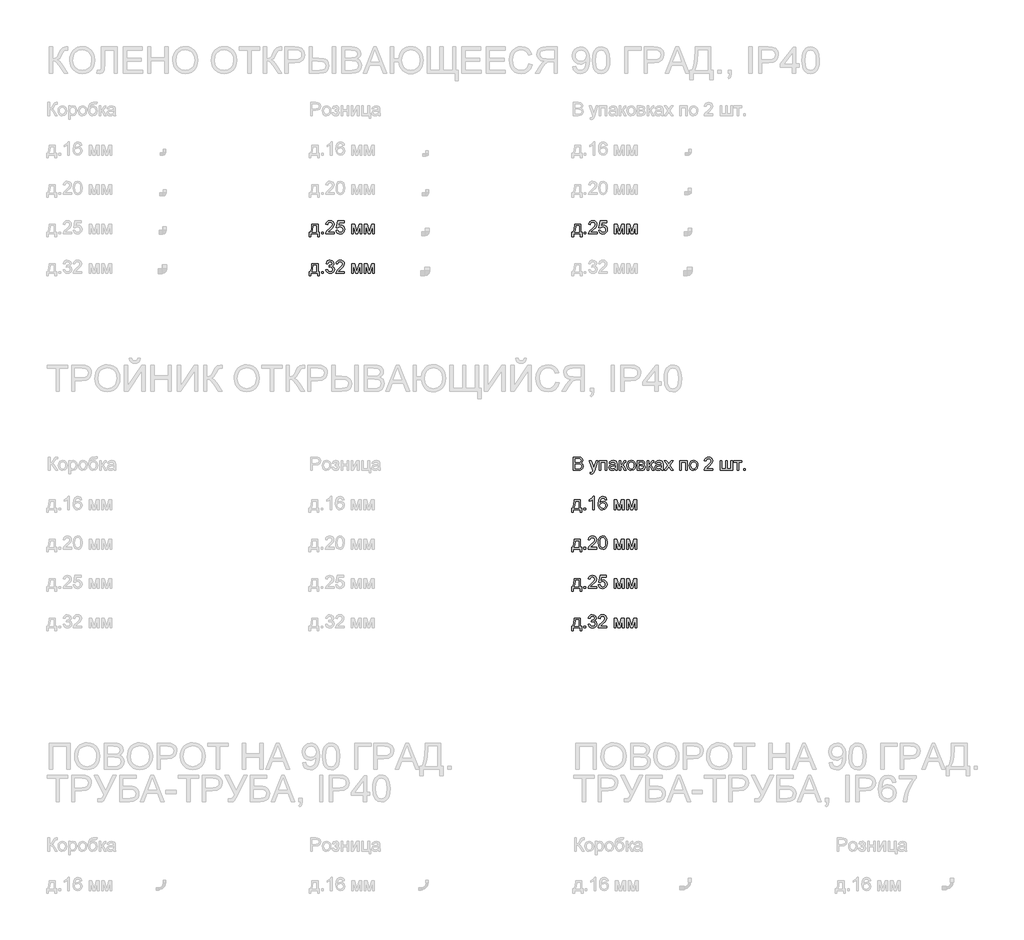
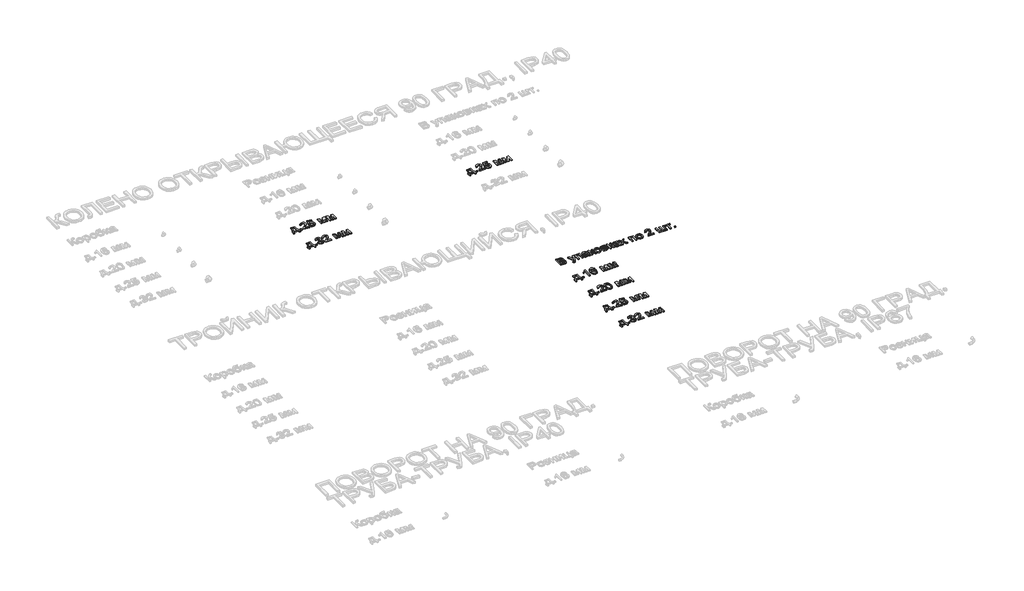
# One storey, part 69 of 98: 8 proxies.
"""IFC4 building model written with IfcOpenShell, lengths in millimetres."""

from ifc_helpers import new_model, si_unit, origin, origin_with_axes, place, context, project, spatial, polyline, outline, extrude, element, save

model = new_model("IFC4")

# Units and contexts
model_context = context("Model", 3, world=origin())
ifc_project = project(units=[si_unit("LENGTHUNIT", "METRE", prefix="MILLI")], contexts=[model_context])

# Site, building, storey
site = spatial("IfcSite", under=ifc_project)
building = spatial("IfcBuilding", under=site)
storey = spatial("IfcBuildingStorey", under=building, Name="Этаж 01", Elevation=0.0)

# Proxies
placement = place(None, origin())
element("IfcBuildingElementProxy", 1, Name="100", ObjectType="100", at=placement, inside=storey, context=model_context, shape_type="SweptSolid", body=[
    extrude(outline(polyline([(1973.0141865, -15985.7395637), (2020.1030819, -15985.7395637), (2020.1030819, -16046.9551277), (2029.520861, -16046.9551277), (2029.520861, -16079.9173545), (2016.9638222, -16079.9173545), (2016.9638222, -16059.5121665), (1965.1660373, -16059.5121665), (1965.1660373, -16079.9173545), (1952.6089985, -16079.9173545), (1952.6089985, -16046.9551277), (1960.4571478, -16046.9551277), (1970.1569697, -16023.0060098), (1973.0141865, -15985.7395637)]), holes=[polyline([(1984.0015955, -15998.2966025), (1981.0585395, -16026.905559), (1974.5838164, -16046.9551277), (2007.5460431, -16046.9551277), (2007.5460431, -15998.2966025), (1984.0015955, -15998.2966025)])]), origin_with_axes(), (0.0, 0.0, 1.0), 10.0),
    extrude(outline(polyline([(2046.7867893, -16059.5121665), (2046.7867893, -16046.9551277), (2059.3438281, -16046.9551277), (2059.3438281, -16059.5121665), (2046.7867893, -16059.5121665)])), origin_with_axes(), (0.0, 0.0, 1.0), 10.0),
    extrude(outline(polyline([(2144.1038398, -16046.9551277), (2144.1038398, -16059.5121665), (2078.1793862, -16059.5121665), (2079.5282869, -16050.8546768), (2087.1557069, -16037.5250859), (2102.8765308, -16022.9692216), (2124.5570431, -16002.0489988), (2129.9771711, -15987.8242283), (2124.8636114, -15976.3095219), (2111.509495, -15971.6128951), (2097.5912928, -15976.1991573), (2092.3060548, -15988.8788234), (2079.7490161, -15987.3091935), (2082.7932396, -15975.1629563), (2089.3752616, -15966.2908689), (2099.1517256, -15960.8646095), (2111.7792751, -15959.0558563), (2124.4987951, -15961.0669445), (2134.256865, -15967.1002093), (2140.4648737, -15976.1133182), (2142.5342099, -15987.0639389), (2140.3023925, -15998.9710528), (2132.8834389, -16011.2828369), (2114.8940093, -16028.4874515), (2100.4485097, -16040.5662437), (2094.7831269, -16046.9551277), (2144.1038398, -16046.9551277)])), origin_with_axes(), (0.0, 0.0, 1.0), 10.0),
    extrude(outline(polyline([(2156.6608785, -16032.8284591), (2169.2179173, -16031.2588292), (2175.5454876, -16044.1960127), (2188.6666121, -16048.5247575), (2197.6674583, -16047.019507), (2204.4119615, -16042.5037555), (2208.6242103, -16035.4986692), (2210.0282933, -16026.5254142), (2204.7675808, -16011.6139307), (2198.1610333, -16007.5120464), (2188.8628158, -16006.1447517), (2177.8386187, -16008.3275182), (2170.7875471, -16013.9929009), (2158.2305084, -16012.4232711), (2169.2179173, -15960.6254862), (2217.8764425, -15960.6254862), (2217.8764425, -15973.1825249), (2179.3714604, -15973.1825249), (2174.0003832, -16000.847251), (2182.9705725, -15995.4025974), (2192.3699575, -15993.5877129), (2204.1023275, -15995.8379245), (2213.8420033, -16002.5885591), (2220.3994999, -16012.8769922), (2222.5853321, -16025.7405993), (2220.6171634, -16038.2976381), (2214.7126574, -16049.0397923), (2203.4064174, -16058.0712953), (2188.6175612, -16061.0817963), (2176.2843173, -16059.1473501), (2166.4588023, -16053.3440117), (2159.7234961, -16044.3462312), (2156.6608785, -16032.8284591)])), origin_with_axes(), (0.0, 0.0, 1.0), 10.0),
    extrude(outline(polyline([(2275.9527468, -15985.7395637), (2297.5596827, -15985.7395637), (2314.2124743, -16044.7968867), (2332.1651157, -15985.7395637), (2352.8646093, -15985.7395637), (2352.8646093, -16059.5121665), (2340.3075705, -16059.5121665), (2340.3075705, -16000.111487), (2322.2568273, -16059.5121665), (2305.7757139, -16059.5121665), (2288.5097856, -15997.2665329), (2288.5097856, -16059.5121665), (2275.9527468, -16059.5121665), (2275.9527468, -15985.7395637)])), origin_with_axes(), (0.0, 0.0, 1.0), 10.0),
    extrude(outline(polyline([(2371.7001674, -15985.7395637), (2393.3071033, -15985.7395637), (2409.9598949, -16044.7968867), (2427.9125363, -15985.7395637), (2448.6120299, -15985.7395637), (2448.6120299, -16059.5121665), (2436.0549911, -16059.5121665), (2436.0549911, -16000.111487), (2418.0042479, -16059.5121665), (2401.5231345, -16059.5121665), (2384.2572062, -15997.2665329), (2384.2572062, -16059.5121665), (2371.7001674, -16059.5121665), (2371.7001674, -15985.7395637)])), origin_with_axes(), (0.0, 0.0, 1.0), 10.0),
])
element("IfcBuildingElementProxy", 2, Name="100", ObjectType="100", at=placement, inside=storey, context=model_context, shape_type="SweptSolid", body=[
    extrude(outline(polyline([(1973.0141865, -16285.7395637), (2020.1030819, -16285.7395637), (2020.1030819, -16346.9551277), (2029.520861, -16346.9551277), (2029.520861, -16379.9173545), (2016.9638222, -16379.9173545), (2016.9638222, -16359.5121665), (1965.1660373, -16359.5121665), (1965.1660373, -16379.9173545), (1952.6089985, -16379.9173545), (1952.6089985, -16346.9551277), (1960.4571478, -16346.9551277), (1970.1569697, -16323.0060098), (1973.0141865, -16285.7395637)]), holes=[polyline([(1984.0015955, -16298.2966025), (1981.0585395, -16326.905559), (1974.5838164, -16346.9551277), (2007.5460431, -16346.9551277), (2007.5460431, -16298.2966025), (1984.0015955, -16298.2966025)])]), origin_with_axes(), (0.0, 0.0, 1.0), 10.0),
    extrude(outline(polyline([(2046.7867893, -16359.5121665), (2046.7867893, -16346.9551277), (2059.3438281, -16346.9551277), (2059.3438281, -16359.5121665), (2046.7867893, -16359.5121665)])), origin_with_axes(), (0.0, 0.0, 1.0), 10.0),
    extrude(outline(polyline([(2079.7490161, -16332.8284591), (2092.3060548, -16331.2588292), (2099.2344991, -16344.4780556), (2112.196208, -16348.5247575), (2120.8046467, -16347.1329373), (2127.4510481, -16342.9574767), (2133.1164308, -16329.1741646), (2127.500099, -16316.1879302), (2113.2262776, -16311.049845), (2104.4216352, -16312.4232711), (2105.8195868, -16299.8662323), (2107.830675, -16300.0133851), (2122.079971, -16296.4081416), (2126.8256487, -16291.8341421), (2128.4075413, -16285.3226308), (2123.8212791, -16275.5001815), (2112.0000043, -16271.6128951), (2100.0315767, -16275.5369697), (2093.8756847, -16287.3091935), (2081.3186459, -16285.7395637), (2085.01586, -16274.4639805), (2091.5948163, -16266.0456142), (2100.5956625, -16260.8032958), (2111.5585459, -16259.0558563), (2126.7030214, -16262.5016843), (2137.2980228, -16271.9194634), (2140.9645801, -16284.5868668), (2137.4819638, -16296.1628869), (2127.181268, -16304.47702), (2140.8664782, -16313.0609332), (2145.6734696, -16329.3948938), (2143.2699739, -16341.6331015), (2136.0594868, -16351.860221), (2125.1763111, -16358.7764025), (2111.7547496, -16361.0817963), (2099.6146438, -16359.1136276), (2089.7308809, -16353.2091216), (2082.8576189, -16344.1776186), (2079.7490161, -16332.8284591)])), origin_with_axes(), (0.0, 0.0, 1.0), 10.0),
    extrude(outline(polyline([(2221.0157022, -16346.9551277), (2221.0157022, -16359.5121665), (2155.0912487, -16359.5121665), (2156.4401493, -16350.8546768), (2164.0675694, -16337.5250859), (2179.7883933, -16322.9692216), (2201.4689055, -16302.0489988), (2206.8890336, -16287.8242283), (2201.7754739, -16276.3095219), (2188.4213574, -16271.6128951), (2174.5031553, -16276.1991573), (2169.2179173, -16288.8788234), (2156.6608785, -16287.3091935), (2159.705102, -16275.1629563), (2166.2871241, -16266.2908689), (2176.0635881, -16260.8646095), (2188.6911376, -16259.0558563), (2201.4106576, -16261.0669445), (2211.1687275, -16267.1002093), (2217.3767361, -16276.1133182), (2219.4460724, -16287.0639389), (2217.2142549, -16298.9710528), (2209.7953014, -16311.2828369), (2191.8058718, -16328.4874515), (2177.3603721, -16340.5662437), (2171.6949894, -16346.9551277), (2221.0157022, -16346.9551277)])), origin_with_axes(), (0.0, 0.0, 1.0), 10.0),
    extrude(outline(polyline([(2275.9527468, -16285.7395637), (2297.5596827, -16285.7395637), (2314.2124743, -16344.7968867), (2332.1651157, -16285.7395637), (2352.8646093, -16285.7395637), (2352.8646093, -16359.5121665), (2340.3075705, -16359.5121665), (2340.3075705, -16300.111487), (2322.2568273, -16359.5121665), (2305.7757139, -16359.5121665), (2288.5097856, -16297.2665329), (2288.5097856, -16359.5121665), (2275.9527468, -16359.5121665), (2275.9527468, -16285.7395637)])), origin_with_axes(), (0.0, 0.0, 1.0), 10.0),
    extrude(outline(polyline([(2371.7001674, -16285.7395637), (2393.3071033, -16285.7395637), (2409.9598949, -16344.7968867), (2427.9125363, -16285.7395637), (2448.6120299, -16285.7395637), (2448.6120299, -16359.5121665), (2436.0549911, -16359.5121665), (2436.0549911, -16300.111487), (2418.0042479, -16359.5121665), (2401.5231345, -16359.5121665), (2384.2572062, -16297.2665329), (2384.2572062, -16359.5121665), (2371.7001674, -16359.5121665), (2371.7001674, -16285.7395637)])), origin_with_axes(), (0.0, 0.0, 1.0), 10.0),
])
element("IfcBuildingElementProxy", 3, Name="100", ObjectType="100", at=placement, inside=storey, context=model_context, shape_type="SweptSolid", body=[
    extrude(outline(polyline([(3973.0141865, -15985.7395637), (4020.1030819, -15985.7395637), (4020.1030819, -16046.9551277), (4029.520861, -16046.9551277), (4029.520861, -16079.9173545), (4016.9638222, -16079.9173545), (4016.9638222, -16059.5121665), (3965.1660373, -16059.5121665), (3965.1660373, -16079.9173545), (3952.6089985, -16079.9173545), (3952.6089985, -16046.9551277), (3960.4571478, -16046.9551277), (3970.1569697, -16023.0060098), (3973.0141865, -15985.7395637)]), holes=[polyline([(3984.0015955, -15998.2966025), (3981.0585395, -16026.905559), (3974.5838164, -16046.9551277), (4007.5460431, -16046.9551277), (4007.5460431, -15998.2966025), (3984.0015955, -15998.2966025)])]), origin_with_axes(), (0.0, 0.0, 1.0), 10.0),
    extrude(outline(polyline([(4046.7867893, -16059.5121665), (4046.7867893, -16046.9551277), (4059.3438281, -16046.9551277), (4059.3438281, -16059.5121665), (4046.7867893, -16059.5121665)])), origin_with_axes(), (0.0, 0.0, 1.0), 10.0),
    extrude(outline(polyline([(4144.1038398, -16046.9551277), (4144.1038398, -16059.5121665), (4078.1793862, -16059.5121665), (4079.5282869, -16050.8546768), (4087.1557069, -16037.5250859), (4102.8765308, -16022.9692216), (4124.5570431, -16002.0489988), (4129.9771711, -15987.8242283), (4124.8636114, -15976.3095219), (4111.509495, -15971.6128951), (4097.5912928, -15976.1991573), (4092.3060548, -15988.8788234), (4079.7490161, -15987.3091935), (4082.7932396, -15975.1629563), (4089.3752616, -15966.2908689), (4099.1517256, -15960.8646095), (4111.7792751, -15959.0558563), (4124.4987951, -15961.0669445), (4134.256865, -15967.1002093), (4140.4648737, -15976.1133182), (4142.5342099, -15987.0639389), (4140.3023925, -15998.9710528), (4132.8834389, -16011.2828369), (4114.8940093, -16028.4874515), (4100.4485097, -16040.5662437), (4094.7831269, -16046.9551277), (4144.1038398, -16046.9551277)])), origin_with_axes(), (0.0, 0.0, 1.0), 10.0),
    extrude(outline(polyline([(4156.6608785, -16032.8284591), (4169.2179173, -16031.2588292), (4175.5454876, -16044.1960127), (4188.6666121, -16048.5247575), (4197.6674583, -16047.019507), (4204.4119615, -16042.5037555), (4208.6242103, -16035.4986692), (4210.0282933, -16026.5254142), (4204.7675808, -16011.6139307), (4198.1610333, -16007.5120464), (4188.8628158, -16006.1447517), (4177.8386187, -16008.3275182), (4170.7875471, -16013.9929009), (4158.2305084, -16012.4232711), (4169.2179173, -15960.6254862), (4217.8764425, -15960.6254862), (4217.8764425, -15973.1825249), (4179.3714604, -15973.1825249), (4174.0003832, -16000.847251), (4182.9705725, -15995.4025974), (4192.3699575, -15993.5877129), (4204.1023275, -15995.8379245), (4213.8420033, -16002.5885591), (4220.3994999, -16012.8769922), (4222.5853321, -16025.7405993), (4220.6171634, -16038.2976381), (4214.7126574, -16049.0397923), (4203.4064174, -16058.0712953), (4188.6175612, -16061.0817963), (4176.2843173, -16059.1473501), (4166.4588023, -16053.3440117), (4159.7234961, -16044.3462312), (4156.6608785, -16032.8284591)])), origin_with_axes(), (0.0, 0.0, 1.0), 10.0),
    extrude(outline(polyline([(4275.9527468, -15985.7395637), (4297.5596827, -15985.7395637), (4314.2124743, -16044.7968867), (4332.1651157, -15985.7395637), (4352.8646093, -15985.7395637), (4352.8646093, -16059.5121665), (4340.3075705, -16059.5121665), (4340.3075705, -16000.111487), (4322.2568273, -16059.5121665), (4305.7757139, -16059.5121665), (4288.5097856, -15997.2665329), (4288.5097856, -16059.5121665), (4275.9527468, -16059.5121665), (4275.9527468, -15985.7395637)])), origin_with_axes(), (0.0, 0.0, 1.0), 10.0),
    extrude(outline(polyline([(4371.7001674, -15985.7395637), (4393.3071033, -15985.7395637), (4409.9598949, -16044.7968867), (4427.9125363, -15985.7395637), (4448.6120299, -15985.7395637), (4448.6120299, -16059.5121665), (4436.0549911, -16059.5121665), (4436.0549911, -16000.111487), (4418.0042479, -16059.5121665), (4401.5231345, -16059.5121665), (4384.2572062, -15997.2665329), (4384.2572062, -16059.5121665), (4371.7001674, -16059.5121665), (4371.7001674, -15985.7395637)])), origin_with_axes(), (0.0, 0.0, 1.0), 10.0),
])
element("IfcBuildingElementProxy", 4, Name="100", ObjectType="100", at=placement, inside=storey, context=model_context, shape_type="SweptSolid", body=[
    extrude(outline(polyline([(3970.1856084, -18085.7395637), (4017.2745038, -18085.7395637), (4017.2745038, -18146.9551277), (4026.6922829, -18146.9551277), (4026.6922829, -18179.9173545), (4014.1352441, -18179.9173545), (4014.1352441, -18159.5121665), (3962.3374592, -18159.5121665), (3962.3374592, -18179.9173545), (3949.7804204, -18179.9173545), (3949.7804204, -18146.9551277), (3957.6285697, -18146.9551277), (3967.3283916, -18123.0060098), (3970.1856084, -18085.7395637)]), holes=[polyline([(3981.1730173, -18098.2966025), (3978.2299614, -18126.905559), (3971.7552383, -18146.9551277), (4004.717465, -18146.9551277), (4004.717465, -18098.2966025), (3981.1730173, -18098.2966025)])]), origin_with_axes(), (0.0, 0.0, 1.0), 10.0),
    extrude(outline(polyline([(4043.9582112, -18159.5121665), (4043.9582112, -18146.9551277), (4056.51525, -18146.9551277), (4056.51525, -18159.5121665), (4043.9582112, -18159.5121665)])), origin_with_axes(), (0.0, 0.0, 1.0), 10.0),
    extrude(outline(polyline([(4124.0093333, -18159.5121665), (4111.4522946, -18159.5121665), (4111.4522946, -18081.2268779), (4099.5574434, -18089.7004265), (4086.338217, -18096.0402596), (4086.338217, -18084.1699338), (4104.7445795, -18072.4222355), (4115.9159294, -18059.0558563), (4124.0093333, -18059.0558563), (4124.0093333, -18159.5121665)])), origin_with_axes(), (0.0, 0.0, 1.0), 10.0),
    extrude(outline(polyline([(4218.1871241, -18085.7395637), (4205.6300853, -18087.3091935), (4200.8721449, -18076.8368194), (4188.2905806, -18071.6128951), (4176.9598152, -18074.6540529), (4168.3881647, -18086.0706575), (4164.8197093, -18108.4501455), (4175.8929574, -18098.4314925), (4189.6149558, -18095.1573428), (4201.2155014, -18097.3952916), (4210.9521115, -18104.109138), (4217.5555933, -18114.3669143), (4219.7567539, -18127.2366527), (4215.6119501, -18144.5638947), (4204.2076083, -18156.8266279), (4187.7510204, -18161.0817963), (4173.5047901, -18158.2613677), (4162.1586962, -18149.8000818), (4154.736677, -18134.8640728), (4152.2626706, -18112.6194748), (4155.0095228, -18087.6096305), (4163.2500795, -18070.5092491), (4174.5011372, -18061.9192045), (4189.0753956, -18059.0558563), (4200.0934613, -18060.8278213), (4208.9164978, -18066.1437161), (4215.0969153, -18074.5866079), (4218.1871241, -18085.7395637)]), holes=[polyline([(4164.8197093, -18127.040449), (4167.7259771, -18137.9174933), (4175.451499, -18145.8146935), (4186.7700017, -18148.5247575), (4195.0565437, -18147.1206746), (4201.5711207, -18142.9084257), (4205.7925665, -18136.2865498), (4207.1997152, -18127.6535857), (4205.8109606, -18119.3670437), (4201.6446971, -18113.0486705), (4195.0197555, -18109.0479538), (4186.2549669, -18107.7143815), (4171.0614405, -18113.0486705), (4166.3801421, -18119.2137596), (4164.8197093, -18127.040449)])]), origin_with_axes(), (0.0, 0.0, 1.0), 10.0),
    extrude(outline(polyline([(4273.1241687, -18085.7395637), (4294.7311046, -18085.7395637), (4311.3838962, -18144.7968867), (4329.3365376, -18085.7395637), (4350.0360312, -18085.7395637), (4350.0360312, -18159.5121665), (4337.4789924, -18159.5121665), (4337.4789924, -18100.111487), (4319.4282492, -18159.5121665), (4302.9471358, -18159.5121665), (4285.6812075, -18097.2665329), (4285.6812075, -18159.5121665), (4273.1241687, -18159.5121665), (4273.1241687, -18085.7395637)])), origin_with_axes(), (0.0, 0.0, 1.0), 10.0),
    extrude(outline(polyline([(4368.8715893, -18085.7395637), (4390.4785252, -18085.7395637), (4407.1313168, -18144.7968867), (4425.0839582, -18085.7395637), (4445.7834518, -18085.7395637), (4445.7834518, -18159.5121665), (4433.226413, -18159.5121665), (4433.226413, -18100.111487), (4415.1756698, -18159.5121665), (4398.6945564, -18159.5121665), (4381.4286281, -18097.2665329), (4381.4286281, -18159.5121665), (4368.8715893, -18159.5121665), (4368.8715893, -18085.7395637)])), origin_with_axes(), (0.0, 0.0, 1.0), 10.0),
])
element("IfcBuildingElementProxy", 5, Name="100", ObjectType="100", at=placement, inside=storey, context=model_context, shape_type="SweptSolid", body=[
    extrude(outline(polyline([(3963.5964075, -17859.5121665), (3963.5964075, -17759.0558563), (4001.9297114, -17759.0558563), (4020.7039558, -17762.011175), (4031.7894666, -17771.0978603), (4035.7993804, -17783.9492046), (4032.4271288, -17795.6846403), (4022.2367975, -17804.5751218), (4034.6098953, -17813.94385), (4038.9386401, -17829.5665721), (4035.9833214, -17843.0678413), (4028.6624697, -17852.6818241), (4017.7363744, -17857.7831211), (4001.6354058, -17859.5121665), (3963.5964075, -17859.5121665)]), holes=[polyline([(3976.1534462, -17799.8662323), (3999.0847573, -17799.8662323), (4012.4756619, -17798.7871118), (4020.5322776, -17794.1395359), (4023.2423416, -17785.9602929), (4020.7162186, -17777.7687871), (4013.481206, -17772.9250075), (3997.3434491, -17771.6128951), (3976.1534462, -17771.6128951), (3976.1534462, -17799.8662323)]), polyline([(3976.1534462, -17846.9551277), (4001.9051859, -17846.9551277), (4011.2248631, -17846.4646184), (4019.1098005, -17843.7300289), (4024.3337249, -17838.1504853), (4026.3816013, -17829.6891994), (4023.9781056, -17819.9280638), (4016.19127, -17814.1032655), (4000.6789126, -17812.4232711), (3976.1534462, -17812.4232711), (3976.1534462, -17846.9551277)])]), origin_with_axes(), (0.0, 0.0, 1.0), 10.0),
    extrude(outline(polyline([(4093.8756847, -17887.7655037), (4092.3060548, -17875.6744488), (4098.6826761, -17876.7780948), (4104.6423644, -17875.3924059), (4108.2966589, -17871.529645), (4111.7302242, -17862.2835442), (4112.7112428, -17859.2423863), (4086.0275354, -17785.7395637), (4099.2712873, -17785.7395637), (4113.4224814, -17826.6970925), (4118.3521001, -17843.080104), (4123.2817188, -17828.6100789), (4137.8253204, -17785.7395637), (4150.9709703, -17785.7395637), (4125.2928071, -17861.278), (4118.6218802, -17877.6610116), (4111.3378167, -17886.5147049), (4101.5521556, -17889.3351335), (4093.8756847, -17887.7655037)])), origin_with_axes(), (0.0, 0.0, 1.0), 10.0),
    extrude(outline(polyline([(4161.3697681, -17785.7395637), (4217.8764425, -17785.7395637), (4217.8764425, -17859.5121665), (4205.3194038, -17859.5121665), (4205.3194038, -17798.2966025), (4173.9268068, -17798.2966025), (4173.9268068, -17859.5121665), (4161.3697681, -17859.5121665), (4161.3697681, -17785.7395637)])), origin_with_axes(), (0.0, 0.0, 1.0), 10.0),
    extrude(outline(polyline([(4283.8008961, -17850.0943874), (4271.624002, -17858.6047242), (4258.1717837, -17861.0817963), (4247.6779498, -17859.5918742), (4239.9370995, -17855.122108), (4235.1638306, -17848.3346852), (4233.572741, -17839.8917934), (4235.9762367, -17829.9589795), (4242.2915443, -17822.7484924), (4251.083924, -17818.6282141), (4261.9487055, -17816.7397532), (4283.7273197, -17812.4232711), (4283.8008961, -17809.6273679), (4280.3428053, -17800.3567416), (4266.4613913, -17796.7269726), (4253.7571998, -17799.142731), (4247.6994096, -17807.7143815), (4235.1423708, -17806.1447517), (4240.5747616, -17793.8820185), (4251.5131196, -17786.6960569), (4268.0800721, -17784.1699338), (4283.298124, -17786.4017513), (4291.8942999, -17792.0058203), (4295.7447982, -17800.5284199), (4296.3579348, -17811.5158288), (4296.3579348, -17827.1385509), (4296.9955969, -17848.9539532), (4299.4971945, -17859.5121665), (4286.9401557, -17859.5121665), (4283.8008961, -17850.0943874)]), holes=[polyline([(4283.8008961, -17824.9803098), (4263.5428609, -17828.8308081), (4252.7393929, -17830.8664218), (4247.8465624, -17834.1773597), (4246.1297797, -17839.0088766), (4249.8699134, -17845.8024308), (4260.8450596, -17848.5247575), (4273.5492511, -17845.5203879), (4281.7407569, -17838.2485871), (4283.7273197, -17828.5365025), (4283.8008961, -17824.9803098)])]), origin_with_axes(), (0.0, 0.0, 1.0), 10.0),
    extrude(outline(polyline([(4313.6238631, -17785.7395637), (4326.1809019, -17785.7395637), (4326.1809019, -17817.1321606), (4334.5931369, -17814.8758177), (4341.4847929, -17801.7301677), (4347.2114893, -17790.3871396), (4352.2637354, -17786.6960569), (4361.4485225, -17785.7395637), (4363.8520182, -17785.7395637), (4363.8520182, -17798.3701789), (4360.4675038, -17798.2966025), (4354.3361373, -17799.6209776), (4350.0196552, -17807.8860598), (4344.9551464, -17816.8255923), (4337.8550239, -17821.203388), (4345.7767495, -17826.0900872), (4353.5513223, -17836.3846517), (4366.9912779, -17859.5121665), (4352.7174565, -17859.5121665), (4339.5472811, -17836.875161), (4332.9254051, -17827.2979664), (4326.1809019, -17824.9803098), (4326.1809019, -17859.5121665), (4313.6238631, -17859.5121665), (4313.6238631, -17785.7395637)])), origin_with_axes(), (0.0, 0.0, 1.0), 10.0),
    extrude(outline(polyline([(4371.7001674, -17822.6258651), (4374.4163628, -17804.8387706), (4382.564949, -17792.3369141), (4392.632653, -17786.2116789), (4404.6869197, -17784.1699338), (4417.8785549, -17786.656203), (4428.4153084, -17794.1150104), (4435.3222928, -17805.957745), (4437.624621, -17821.5957955), (4433.5533936, -17843.9384953), (4421.6953306, -17856.5813732), (4404.6869197, -17861.0817963), (4391.3358689, -17858.6047242), (4380.8113782, -17851.1735079), (4373.9779701, -17839.082453), (4371.7001674, -17822.6258651)]), holes=[polyline([(4384.2572062, -17822.6013396), (4385.7103401, -17833.9658276), (4390.0697417, -17842.0622972), (4396.630304, -17846.9091424), (4404.6869197, -17848.5247575), (4412.7067472, -17846.8999454), (4419.2550467, -17842.025509), (4423.6144483, -17833.8217405), (4425.0675822, -17822.2089321), (4423.6052513, -17811.175538), (4419.2182585, -17803.189433), (4412.6607619, -17798.3425877), (4404.6869197, -17796.7269726), (4396.630304, -17798.3364563), (4390.0697417, -17803.1649075), (4385.7103401, -17811.242983), (4384.2572062, -17822.6013396)])]), origin_with_axes(), (0.0, 0.0, 1.0), 10.0),
    extrude(outline(polyline([(4451.7512896, -17785.7395637), (4479.4160156, -17785.7395637), (4494.5850166, -17787.4195581), (4503.1198788, -17793.5754502), (4506.6883342, -17804.3053417), (4504.5300932, -17813.024145), (4498.0308446, -17819.2413507), (4506.467605, -17826.0471676), (4509.8275939, -17837.8807051), (4507.7000097, -17847.4517684), (4502.6416323, -17854.1901403), (4494.6340675, -17858.1816599), (4483.6589213, -17859.5121665), (4451.7512896, -17859.5121665), (4451.7512896, -17785.7395637)]), holes=[polyline([(4464.3083284, -17846.9551277), (4479.7103212, -17846.9551277), (4493.371006, -17844.6865221), (4497.2705551, -17836.8506356), (4495.1245768, -17830.8051081), (4489.5327705, -17827.2857037), (4478.4840479, -17826.5499397), (4464.3083284, -17826.5499397), (4464.3083284, -17846.9551277)]), polyline([(4464.3083284, -17813.9929009), (4476.7182143, -17813.9929009), (4486.9575965, -17813.3552388), (4491.9362662, -17810.8045903), (4494.1312954, -17806.1938026), (4490.2807972, -17800.0379106), (4477.1106218, -17798.2966025), (4464.3083284, -17798.2966025), (4464.3083284, -17813.9929009)])]), origin_with_axes(), (0.0, 0.0, 1.0), 10.0),
    extrude(outline(polyline([(4525.5238924, -17785.7395637), (4538.0809311, -17785.7395637), (4538.0809311, -17817.1321606), (4546.4931661, -17814.8758177), (4553.3848221, -17801.7301677), (4559.1115185, -17790.3871396), (4564.1637646, -17786.6960569), (4573.3485517, -17785.7395637), (4575.7520474, -17785.7395637), (4575.7520474, -17798.3701789), (4572.3675331, -17798.2966025), (4566.2361665, -17799.6209776), (4561.9196844, -17807.8860598), (4556.8551756, -17816.8255923), (4549.7550531, -17821.203388), (4557.6767787, -17826.0900872), (4565.4513516, -17836.3846517), (4578.8913071, -17859.5121665), (4564.6174857, -17859.5121665), (4551.4473103, -17836.875161), (4544.8254344, -17827.2979664), (4538.0809311, -17824.9803098), (4538.0809311, -17859.5121665), (4525.5238924, -17859.5121665), (4525.5238924, -17785.7395637)])), origin_with_axes(), (0.0, 0.0, 1.0), 10.0),
    extrude(outline(polyline([(4633.8283517, -17850.0943874), (4621.6514577, -17858.6047242), (4608.1992394, -17861.0817963), (4597.7054055, -17859.5918742), (4589.9645552, -17855.122108), (4585.1912863, -17848.3346852), (4583.6001967, -17839.8917934), (4586.0036924, -17829.9589795), (4592.3189999, -17822.7484924), (4601.1113796, -17818.6282141), (4611.9761612, -17816.7397532), (4633.7547753, -17812.4232711), (4633.8283517, -17809.6273679), (4630.370261, -17800.3567416), (4616.488847, -17796.7269726), (4603.7846555, -17799.142731), (4597.7268653, -17807.7143815), (4585.1698265, -17806.1447517), (4590.6022173, -17793.8820185), (4601.5405753, -17786.6960569), (4618.1075278, -17784.1699338), (4633.3255797, -17786.4017513), (4641.9217556, -17792.0058203), (4645.7722538, -17800.5284199), (4646.3853905, -17811.5158288), (4646.3853905, -17827.1385509), (4647.0230526, -17848.9539532), (4649.5246502, -17859.5121665), (4636.9676114, -17859.5121665), (4633.8283517, -17850.0943874)]), holes=[polyline([(4633.8283517, -17824.9803098), (4613.5703165, -17828.8308081), (4602.7668486, -17830.8664218), (4597.8740181, -17834.1773597), (4596.1572354, -17839.0088766), (4599.897369, -17845.8024308), (4610.8725152, -17848.5247575), (4623.5767068, -17845.5203879), (4631.7682126, -17838.2485871), (4633.7547753, -17828.5365025), (4633.8283517, -17824.9803098)])]), origin_with_axes(), (0.0, 0.0, 1.0), 10.0),
    extrude(outline(polyline([(4655.8031696, -17859.5121665), (4682.6340298, -17822.4296613), (4657.3727994, -17785.7395637), (4672.4804867, -17785.7395637), (4684.6696435, -17803.3978995), (4690.3595517, -17811.736558), (4695.2891704, -17804.9184784), (4709.1705843, -17785.7395637), (4724.2782716, -17785.7395637), (4697.741717, -17822.4296613), (4723.297253, -17859.5121665), (4708.1895657, -17859.5121665), (4692.8120983, -17837.2185176), (4689.9916697, -17833.1472901), (4670.9108568, -17859.5121665), (4655.8031696, -17859.5121665)])), origin_with_axes(), (0.0, 0.0, 1.0), 10.0),
    extrude(outline(polyline([(4773.525408, -17785.7395637), (4830.0320825, -17785.7395637), (4830.0320825, -17859.5121665), (4817.4750437, -17859.5121665), (4817.4750437, -17798.2966025), (4786.0824468, -17798.2966025), (4786.0824468, -17859.5121665), (4773.525408, -17859.5121665), (4773.525408, -17785.7395637)])), origin_with_axes(), (0.0, 0.0, 1.0), 10.0),
    extrude(outline(polyline([(4845.728381, -17822.6258651), (4848.4445764, -17804.8387706), (4856.5931625, -17792.3369141), (4866.6608665, -17786.2116789), (4878.7151332, -17784.1699338), (4891.9067684, -17786.656203), (4902.4435219, -17794.1150104), (4909.3505063, -17805.957745), (4911.6528345, -17821.5957955), (4907.5816071, -17843.9384953), (4895.7235441, -17856.5813732), (4878.7151332, -17861.0817963), (4865.3640824, -17858.6047242), (4854.8395917, -17851.1735079), (4848.0061836, -17839.082453), (4845.728381, -17822.6258651)]), holes=[polyline([(4858.2854197, -17822.6013396), (4859.7385536, -17833.9658276), (4864.0979552, -17842.0622972), (4870.6585175, -17846.9091424), (4878.7151332, -17848.5247575), (4886.7349607, -17846.8999454), (4893.2832602, -17842.025509), (4897.6426618, -17833.8217405), (4899.0957957, -17822.2089321), (4897.6334648, -17811.175538), (4893.246472, -17803.189433), (4886.6889754, -17798.3425877), (4878.7151332, -17796.7269726), (4870.6585175, -17798.3364563), (4864.0979552, -17803.1649075), (4859.7385536, -17811.242983), (4858.2854197, -17822.6013396)])]), origin_with_axes(), (0.0, 0.0, 1.0), 10.0),
    extrude(outline(polyline([(5026.2358133, -17846.9551277), (5026.2358133, -17859.5121665), (4960.3113597, -17859.5121665), (4961.6602604, -17850.8546768), (4969.2876804, -17837.5250859), (4985.0085043, -17822.9692216), (5006.6890166, -17802.0489988), (5012.1091446, -17787.8242283), (5006.9955849, -17776.3095219), (4993.6414685, -17771.6128951), (4979.7232663, -17776.1991573), (4974.4380283, -17788.8788234), (4961.8809896, -17787.3091935), (4964.9252131, -17775.1629563), (4971.5072351, -17766.2908689), (4981.2836991, -17760.8646095), (4993.9112486, -17759.0558563), (5006.6307686, -17761.0669445), (5016.3888385, -17767.1002093), (5022.5968472, -17776.1133182), (5024.6661834, -17787.0639389), (5022.434366, -17798.9710528), (5015.0154124, -17811.2828369), (4997.0259828, -17828.4874515), (4982.5804832, -17840.5662437), (4976.9151004, -17846.9551277), (5026.2358133, -17846.9551277)])), origin_with_axes(), (0.0, 0.0, 1.0), 10.0),
    extrude(outline(polyline([(5081.1728579, -17785.7395637), (5093.7298966, -17785.7395637), (5093.7298966, -17846.9551277), (5121.9832339, -17846.9551277), (5121.9832339, -17785.7395637), (5134.5402726, -17785.7395637), (5134.5402726, -17846.9551277), (5162.7936099, -17846.9551277), (5162.7936099, -17785.7395637), (5175.3506486, -17785.7395637), (5175.3506486, -17859.5121665), (5081.1728579, -17859.5121665), (5081.1728579, -17785.7395637)])), origin_with_axes(), (0.0, 0.0, 1.0), 10.0),
    extrude(outline(polyline([(5186.3380576, -17785.7395637), (5245.9839917, -17785.7395637), (5245.9839917, -17798.2966025), (5222.439544, -17798.2966025), (5222.439544, -17859.5121665), (5209.8825052, -17859.5121665), (5209.8825052, -17798.2966025), (5186.3380576, -17798.2966025), (5186.3380576, -17785.7395637)])), origin_with_axes(), (0.0, 0.0, 1.0), 10.0),
    extrude(outline(polyline([(5260.1106603, -17859.5121665), (5260.1106603, -17846.9551277), (5272.6676991, -17846.9551277), (5272.6676991, -17859.5121665), (5260.1106603, -17859.5121665)])), origin_with_axes(), (0.0, 0.0, 1.0), 10.0),
])
element("IfcBuildingElementProxy", 6, Name="100", ObjectType="100", at=placement, inside=storey, context=model_context, shape_type="SweptSolid", body=[
    extrude(outline(polyline([(3970.1856084, -18385.7395637), (4017.2745038, -18385.7395637), (4017.2745038, -18446.9551277), (4026.6922829, -18446.9551277), (4026.6922829, -18479.9173545), (4014.1352441, -18479.9173545), (4014.1352441, -18459.5121665), (3962.3374592, -18459.5121665), (3962.3374592, -18479.9173545), (3949.7804204, -18479.9173545), (3949.7804204, -18446.9551277), (3957.6285697, -18446.9551277), (3967.3283916, -18423.0060098), (3970.1856084, -18385.7395637)]), holes=[polyline([(3981.1730173, -18398.2966025), (3978.2299614, -18426.905559), (3971.7552383, -18446.9551277), (4004.717465, -18446.9551277), (4004.717465, -18398.2966025), (3981.1730173, -18398.2966025)])]), origin_with_axes(), (0.0, 0.0, 1.0), 10.0),
    extrude(outline(polyline([(4043.9582112, -18459.5121665), (4043.9582112, -18446.9551277), (4056.51525, -18446.9551277), (4056.51525, -18459.5121665), (4043.9582112, -18459.5121665)])), origin_with_axes(), (0.0, 0.0, 1.0), 10.0),
    extrude(outline(polyline([(4141.2752616, -18446.9551277), (4141.2752616, -18459.5121665), (4075.3508081, -18459.5121665), (4076.6997088, -18450.8546768), (4084.3271288, -18437.5250859), (4100.0479527, -18422.9692216), (4121.728465, -18402.0489988), (4127.148593, -18387.8242283), (4122.0350333, -18376.3095219), (4108.6809169, -18371.6128951), (4094.7627147, -18376.1991573), (4089.4774767, -18388.8788234), (4076.920438, -18387.3091935), (4079.9646615, -18375.1629563), (4086.5466835, -18366.2908689), (4096.3231475, -18360.8646095), (4108.950697, -18359.0558563), (4121.670217, -18361.0669445), (4131.4282869, -18367.1002093), (4137.6362956, -18376.1133182), (4139.7056318, -18387.0639389), (4137.4738144, -18398.9710528), (4130.0548608, -18411.2828369), (4112.0654312, -18428.4874515), (4097.6199315, -18440.5662437), (4091.9545488, -18446.9551277), (4141.2752616, -18446.9551277)])), origin_with_axes(), (0.0, 0.0, 1.0), 10.0),
    extrude(outline(polyline([(4153.8323004, -18410.0933518), (4157.5233831, -18381.1900897), (4168.4862666, -18364.5250353), (4186.7945272, -18359.0558563), (4201.4607561, -18362.2932179), (4211.5897737, -18371.6251578), (4217.4758856, -18386.4875904), (4219.7567539, -18410.0933518), (4216.1024595, -18438.8739865), (4205.1763642, -18455.5758291), (4196.9450046, -18459.7053045), (4186.7945272, -18461.0817963), (4173.7469791, -18458.6905633), (4163.8386907, -18451.5168644), (4156.333898, -18434.5268476), (4153.8323004, -18410.0933518)]), holes=[polyline([(4166.3893392, -18410.0688263), (4167.8608672, -18429.8210238), (4172.2754511, -18441.2529568), (4178.8482761, -18446.7068073), (4186.7945272, -18448.5247575), (4194.7407783, -18446.700676), (4201.3136033, -18441.2284313), (4205.7281872, -18429.7903669), (4207.1997152, -18410.0688263), (4205.7772381, -18390.7611529), (4201.509807, -18379.2403151), (4194.9492447, -18373.5197501), (4186.6473744, -18371.6128951), (4178.7869624, -18373.2928895), (4172.4716548, -18378.3328729), (4167.9099181, -18390.5710806), (4166.3893392, -18410.0688263)])]), origin_with_axes(), (0.0, 0.0, 1.0), 10.0),
    extrude(outline(polyline([(4273.1241687, -18385.7395637), (4294.7311046, -18385.7395637), (4311.3838962, -18444.7968867), (4329.3365376, -18385.7395637), (4350.0360312, -18385.7395637), (4350.0360312, -18459.5121665), (4337.4789924, -18459.5121665), (4337.4789924, -18400.111487), (4319.4282492, -18459.5121665), (4302.9471358, -18459.5121665), (4285.6812075, -18397.2665329), (4285.6812075, -18459.5121665), (4273.1241687, -18459.5121665), (4273.1241687, -18385.7395637)])), origin_with_axes(), (0.0, 0.0, 1.0), 10.0),
    extrude(outline(polyline([(4368.8715893, -18385.7395637), (4390.4785252, -18385.7395637), (4407.1313168, -18444.7968867), (4425.0839582, -18385.7395637), (4445.7834518, -18385.7395637), (4445.7834518, -18459.5121665), (4433.226413, -18459.5121665), (4433.226413, -18400.111487), (4415.1756698, -18459.5121665), (4398.6945564, -18459.5121665), (4381.4286281, -18397.2665329), (4381.4286281, -18459.5121665), (4368.8715893, -18459.5121665), (4368.8715893, -18385.7395637)])), origin_with_axes(), (0.0, 0.0, 1.0), 10.0),
])
element("IfcBuildingElementProxy", 7, Name="100", ObjectType="100", at=placement, inside=storey, context=model_context, shape_type="SweptSolid", body=[
    extrude(outline(polyline([(3970.1856084, -18685.7395637), (4017.2745038, -18685.7395637), (4017.2745038, -18746.9551277), (4026.6922829, -18746.9551277), (4026.6922829, -18779.9173545), (4014.1352441, -18779.9173545), (4014.1352441, -18759.5121665), (3962.3374592, -18759.5121665), (3962.3374592, -18779.9173545), (3949.7804204, -18779.9173545), (3949.7804204, -18746.9551277), (3957.6285697, -18746.9551277), (3967.3283916, -18723.0060098), (3970.1856084, -18685.7395637)]), holes=[polyline([(3981.1730173, -18698.2966025), (3978.2299614, -18726.905559), (3971.7552383, -18746.9551277), (4004.717465, -18746.9551277), (4004.717465, -18698.2966025), (3981.1730173, -18698.2966025)])]), origin_with_axes(), (0.0, 0.0, 1.0), 10.0),
    extrude(outline(polyline([(4043.9582112, -18759.5121665), (4043.9582112, -18746.9551277), (4056.51525, -18746.9551277), (4056.51525, -18759.5121665), (4043.9582112, -18759.5121665)])), origin_with_axes(), (0.0, 0.0, 1.0), 10.0),
    extrude(outline(polyline([(4141.2752616, -18746.9551277), (4141.2752616, -18759.5121665), (4075.3508081, -18759.5121665), (4076.6997088, -18750.8546768), (4084.3271288, -18737.5250859), (4100.0479527, -18722.9692216), (4121.728465, -18702.0489988), (4127.148593, -18687.8242283), (4122.0350333, -18676.3095219), (4108.6809169, -18671.6128951), (4094.7627147, -18676.1991573), (4089.4774767, -18688.8788234), (4076.920438, -18687.3091935), (4079.9646615, -18675.1629563), (4086.5466835, -18666.2908689), (4096.3231475, -18660.8646095), (4108.950697, -18659.0558563), (4121.670217, -18661.0669445), (4131.4282869, -18667.1002093), (4137.6362956, -18676.1133182), (4139.7056318, -18687.0639389), (4137.4738144, -18698.9710528), (4130.0548608, -18711.2828369), (4112.0654312, -18728.4874515), (4097.6199315, -18740.5662437), (4091.9545488, -18746.9551277), (4141.2752616, -18746.9551277)])), origin_with_axes(), (0.0, 0.0, 1.0), 10.0),
    extrude(outline(polyline([(4153.8323004, -18732.8284591), (4166.3893392, -18731.2588292), (4172.7169095, -18744.1960127), (4185.838034, -18748.5247575), (4194.8388801, -18747.019507), (4201.5833834, -18742.5037555), (4205.7956322, -18735.4986692), (4207.1997152, -18726.5254142), (4201.9390026, -18711.6139307), (4195.3324552, -18707.5120464), (4186.0342377, -18706.1447517), (4175.0100406, -18708.3275182), (4167.958969, -18713.9929009), (4155.4019303, -18712.4232711), (4166.3893392, -18660.6254862), (4215.0478644, -18660.6254862), (4215.0478644, -18673.1825249), (4176.5428822, -18673.1825249), (4171.1718051, -18700.847251), (4180.1419944, -18695.4025974), (4189.5413794, -18693.5877129), (4201.2737494, -18695.8379245), (4211.0134252, -18702.5885591), (4217.5709218, -18712.8769922), (4219.7567539, -18725.7405993), (4217.7885853, -18738.2976381), (4211.8840793, -18749.0397923), (4200.5778393, -18758.0712953), (4185.7889831, -18761.0817963), (4173.4557392, -18759.1473501), (4163.6302242, -18753.3440117), (4156.894918, -18744.3462312), (4153.8323004, -18732.8284591)])), origin_with_axes(), (0.0, 0.0, 1.0), 10.0),
    extrude(outline(polyline([(4273.1241687, -18685.7395637), (4294.7311046, -18685.7395637), (4311.3838962, -18744.7968867), (4329.3365376, -18685.7395637), (4350.0360312, -18685.7395637), (4350.0360312, -18759.5121665), (4337.4789924, -18759.5121665), (4337.4789924, -18700.111487), (4319.4282492, -18759.5121665), (4302.9471358, -18759.5121665), (4285.6812075, -18697.2665329), (4285.6812075, -18759.5121665), (4273.1241687, -18759.5121665), (4273.1241687, -18685.7395637)])), origin_with_axes(), (0.0, 0.0, 1.0), 10.0),
    extrude(outline(polyline([(4368.8715893, -18685.7395637), (4390.4785252, -18685.7395637), (4407.1313168, -18744.7968867), (4425.0839582, -18685.7395637), (4445.7834518, -18685.7395637), (4445.7834518, -18759.5121665), (4433.226413, -18759.5121665), (4433.226413, -18700.111487), (4415.1756698, -18759.5121665), (4398.6945564, -18759.5121665), (4381.4286281, -18697.2665329), (4381.4286281, -18759.5121665), (4368.8715893, -18759.5121665), (4368.8715893, -18685.7395637)])), origin_with_axes(), (0.0, 0.0, 1.0), 10.0),
])
element("IfcBuildingElementProxy", 8, Name="100", ObjectType="100", at=placement, inside=storey, context=model_context, shape_type="SweptSolid", body=[
    extrude(outline(polyline([(3970.1856084, -18985.7395637), (4017.2745038, -18985.7395637), (4017.2745038, -19046.9551277), (4026.6922829, -19046.9551277), (4026.6922829, -19079.9173545), (4014.1352441, -19079.9173545), (4014.1352441, -19059.5121665), (3962.3374592, -19059.5121665), (3962.3374592, -19079.9173545), (3949.7804204, -19079.9173545), (3949.7804204, -19046.9551277), (3957.6285697, -19046.9551277), (3967.3283916, -19023.0060098), (3970.1856084, -18985.7395637)]), holes=[polyline([(3981.1730173, -18998.2966025), (3978.2299614, -19026.905559), (3971.7552383, -19046.9551277), (4004.717465, -19046.9551277), (4004.717465, -18998.2966025), (3981.1730173, -18998.2966025)])]), origin_with_axes(), (0.0, 0.0, 1.0), 10.0),
    extrude(outline(polyline([(4043.9582112, -19059.5121665), (4043.9582112, -19046.9551277), (4056.51525, -19046.9551277), (4056.51525, -19059.5121665), (4043.9582112, -19059.5121665)])), origin_with_axes(), (0.0, 0.0, 1.0), 10.0),
    extrude(outline(polyline([(4076.920438, -19032.8284591), (4089.4774767, -19031.2588292), (4096.405921, -19044.4780556), (4109.3676299, -19048.5247575), (4117.9760686, -19047.1329373), (4124.62247, -19042.9574767), (4130.2878527, -19029.1741646), (4124.6715209, -19016.1879302), (4110.3976995, -19011.049845), (4101.5930571, -19012.4232711), (4102.9910087, -18999.8662323), (4105.0020969, -19000.0133851), (4119.2513929, -18996.4081416), (4123.9970706, -18991.8341421), (4125.5789632, -18985.3226308), (4120.992701, -18975.5001815), (4109.1714262, -18971.6128951), (4097.2029986, -18975.5369697), (4091.0471066, -18987.3091935), (4078.4900678, -18985.7395637), (4082.1872819, -18974.4639805), (4088.7662382, -18966.0456142), (4097.7670843, -18960.8032958), (4108.7299678, -18959.0558563), (4123.8744433, -18962.5016843), (4134.4694447, -18971.9194634), (4138.136002, -18984.5868668), (4134.6533857, -18996.1628869), (4124.3526899, -19004.47702), (4138.0379001, -19013.0609332), (4142.8448915, -19029.3948938), (4140.4413958, -19041.6331015), (4133.2309087, -19051.860221), (4122.347733, -19058.7764025), (4108.9261715, -19061.0817963), (4096.7860657, -19059.1136276), (4086.9023028, -19053.2091216), (4080.0290408, -19044.1776186), (4076.920438, -19032.8284591)])), origin_with_axes(), (0.0, 0.0, 1.0), 10.0),
    extrude(outline(polyline([(4218.1871241, -19046.9551277), (4218.1871241, -19059.5121665), (4152.2626706, -19059.5121665), (4153.6115712, -19050.8546768), (4161.2389912, -19037.5250859), (4176.9598152, -19022.9692216), (4198.6403274, -19002.0489988), (4204.0604555, -18987.8242283), (4198.9468958, -18976.3095219), (4185.5927793, -18971.6128951), (4171.6745772, -18976.1991573), (4166.3893392, -18988.8788234), (4153.8323004, -18987.3091935), (4156.8765239, -18975.1629563), (4163.458546, -18966.2908689), (4173.23501, -18960.8646095), (4185.8625595, -18959.0558563), (4198.5820794, -18961.0669445), (4208.3401494, -18967.1002093), (4214.548158, -18976.1133182), (4216.6174943, -18987.0639389), (4214.3856768, -18998.9710528), (4206.9667232, -19011.2828369), (4188.9772937, -19028.4874515), (4174.531794, -19040.5662437), (4168.8664113, -19046.9551277), (4218.1871241, -19046.9551277)])), origin_with_axes(), (0.0, 0.0, 1.0), 10.0),
    extrude(outline(polyline([(4273.1241687, -18985.7395637), (4294.7311046, -18985.7395637), (4311.3838962, -19044.7968867), (4329.3365376, -18985.7395637), (4350.0360312, -18985.7395637), (4350.0360312, -19059.5121665), (4337.4789924, -19059.5121665), (4337.4789924, -19000.111487), (4319.4282492, -19059.5121665), (4302.9471358, -19059.5121665), (4285.6812075, -18997.2665329), (4285.6812075, -19059.5121665), (4273.1241687, -19059.5121665), (4273.1241687, -18985.7395637)])), origin_with_axes(), (0.0, 0.0, 1.0), 10.0),
    extrude(outline(polyline([(4368.8715893, -18985.7395637), (4390.4785252, -18985.7395637), (4407.1313168, -19044.7968867), (4425.0839582, -18985.7395637), (4445.7834518, -18985.7395637), (4445.7834518, -19059.5121665), (4433.226413, -19059.5121665), (4433.226413, -19000.111487), (4415.1756698, -19059.5121665), (4398.6945564, -19059.5121665), (4381.4286281, -18997.2665329), (4381.4286281, -19059.5121665), (4368.8715893, -19059.5121665), (4368.8715893, -18985.7395637)])), origin_with_axes(), (0.0, 0.0, 1.0), 10.0),
])

save(model, "model.ifc")
